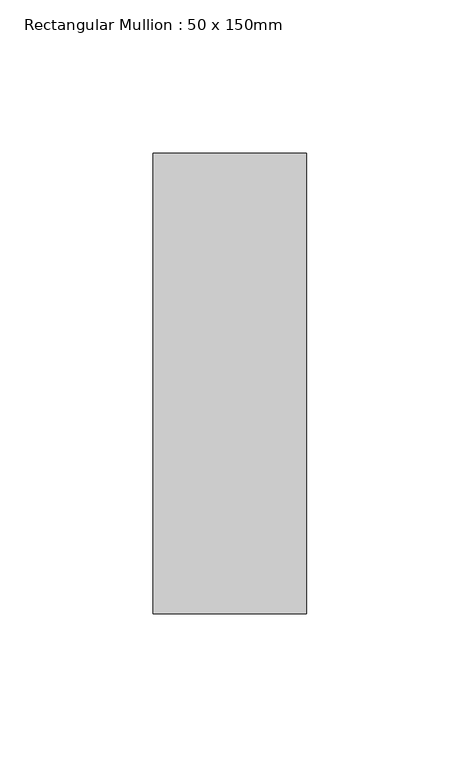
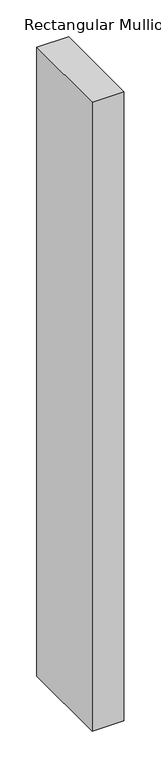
"""IFC4 building model written with IfcOpenShell, lengths in millimetres: member geometry, Rectangular Mullion : 50 x 150mm."""

from ifc_helpers import new_model, si_unit, frame, origin, place, context, project, spatial, polyline, outline, extrude, source, transform, mapped, element, save


def rectangular_mullion_50_x_150mm_0dbe456f(model_context):
    return source(origin(), model_context, "Body", "SweptSolid", [
        extrude(outline(polyline([(0.0, 75.0), (0.0, -75.0), (-50.0, -75.0), (-50.0, 75.0), (0.0, 75.0)])), frame((0.0, 0.0, -1042.5), z_axis=(0.0, 0.0, 1.0), x_axis=(1.0, 0.0, 0.0)), (0.0, 0.0, 1.0), 1042.5),
    ])


if __name__ == "__main__":
    model = new_model("IFC4")
    model_context = context("Model", 3, world=origin())
    ifc_project = project(units=[si_unit("LENGTHUNIT", "METRE", prefix="MILLI")], contexts=[model_context])
    site = spatial("IfcSite", under=ifc_project)
    building = spatial("IfcBuilding", under=site)
    placement = place(None, origin())
    rectangular_mullion_50_x_150mm_shape = rectangular_mullion_50_x_150mm_0dbe456f(model_context)
    element("IfcMember", 1, ObjectType="Rectangular Mullion : 50 x 150mm", at=placement, inside=building, context=model_context, shape_type="MappedRepresentation", body=[
        mapped(rectangular_mullion_50_x_150mm_shape, transform((0.0, 0.0, 0.0), x_axis=(1.0, 0.0, 0.0), y_axis=(0.0, 1.0, 0.0), z_axis=(0.0, 0.0, 1.0))),
    ])
    save(model, "model.ifc")
